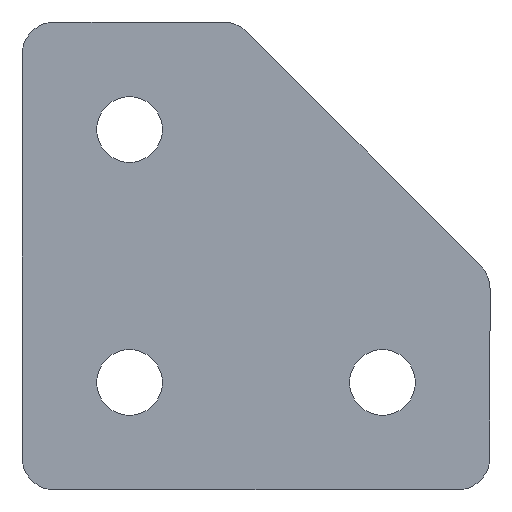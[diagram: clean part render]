
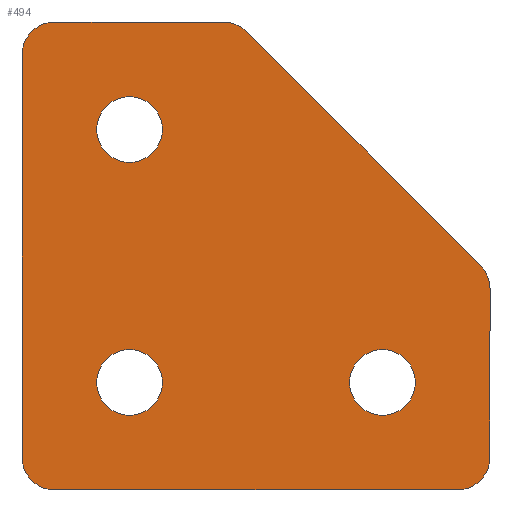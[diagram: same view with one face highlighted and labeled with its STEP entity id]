
A CAD part, front view. The second image highlights one B-rep face of the part: STEP entity #494.
In plain terms, the highlighted planar face has unit normal (0, -1, 0).
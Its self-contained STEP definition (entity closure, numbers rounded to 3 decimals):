
#1 = PLANE ( 'NONE',  #552 ) ;
#11 = VERTEX_POINT ( 'NONE', #652 ) ;
#14 = VERTEX_POINT ( 'NONE', #286 ) ;
#16 = CIRCLE ( 'NONE', #200, 2.6 ) ;
#23 = CARTESIAN_POINT ( 'NONE',  ( 4.961, 0., 14.663 ) ) ;
#25 = EDGE_CURVE ( 'NONE', #11, #14, #507, .T. ) ;
#26 = CARTESIAN_POINT ( 'NONE',  ( 10.861, 0., 6.163 ) ) ;
#29 = DIRECTION ( 'NONE',  ( 0., 1., 0. ) ) ;
#31 = DIRECTION ( 'NONE',  ( 0., 0., 1. ) ) ;
#34 = VERTEX_POINT ( 'NONE', #334 ) ;
#47 = CARTESIAN_POINT ( 'NONE',  ( 12.7, 0., 23.925 ) ) ;
#55 = ORIENTED_EDGE ( 'NONE', *, *, #306, .F. ) ;
#56 = ORIENTED_EDGE ( 'NONE', *, *, #94, .F. ) ;
#57 = DIRECTION ( 'NONE',  ( 0., 0., 1. ) ) ;
#61 = EDGE_CURVE ( 'NONE', #117, #530, #506, .T. ) ;
#65 = VERTEX_POINT ( 'NONE', #573 ) ;
#67 = AXIS2_PLACEMENT_3D ( 'NONE', #23, #381, #76 ) ;
#68 = VECTOR ( 'NONE', #31, 1000. ) ;
#71 = CARTESIAN_POINT ( 'NONE',  ( -15.039, 0., 34.663 ) ) ;
#73 = EDGE_CURVE ( 'NONE', #186, #65, #630, .T. ) ;
#76 = DIRECTION ( 'NONE',  ( 0., 0., 1. ) ) ;
#78 = DIRECTION ( 'NONE',  ( 0., 1., 0. ) ) ;
#80 = DIRECTION ( 'NONE',  ( 0., 1., 0. ) ) ;
#86 = AXIS2_PLACEMENT_3D ( 'NONE', #444, #136, #493 ) ;
#89 = VERTEX_POINT ( 'NONE', #626 ) ;
#94 = EDGE_CURVE ( 'NONE', #599, #186, #535, .T. ) ;
#97 = CARTESIAN_POINT ( 'NONE',  ( -7.616, 0., 43.163 ) ) ;
#98 = LINE ( 'NONE', #97, #629 ) ;
#103 = DIRECTION ( 'NONE',  ( 0., 1., 0. ) ) ;
#107 = ORIENTED_EDGE ( 'NONE', *, *, #25, .T. ) ;
#111 = VERTEX_POINT ( 'NONE', #309 ) ;
#112 = CIRCLE ( 'NONE', #411, 2.6 ) ;
#117 = VERTEX_POINT ( 'NONE', #256 ) ;
#118 = CARTESIAN_POINT ( 'NONE',  ( 4.961, 0., 14.663 ) ) ;
#121 = CARTESIAN_POINT ( 'NONE',  ( -7.616, 0., 40.563 ) ) ;
#132 = EDGE_CURVE ( 'NONE', #111, #140, #360, .T. ) ;
#136 = DIRECTION ( 'NONE',  ( 0., 1., 0. ) ) ;
#138 = CIRCLE ( 'NONE', #314, 2.6 ) ;
#140 = VERTEX_POINT ( 'NONE', #582 ) ;
#143 = EDGE_CURVE ( 'NONE', #14, #11, #612, .T. ) ;
#149 = AXIS2_PLACEMENT_3D ( 'NONE', #71, #425, #57 ) ;
#154 = DIRECTION ( 'NONE',  ( 0., -1., 0. ) ) ;
#160 = DIRECTION ( 'NONE',  ( 0., 0., 1. ) ) ;
#166 = ORIENTED_EDGE ( 'NONE', *, *, #366, .T. ) ;
#167 = FACE_OUTER_BOUND ( 'NONE', #554, .T. ) ;
#181 = ORIENTED_EDGE ( 'NONE', *, *, #623, .F. ) ;
#186 = VERTEX_POINT ( 'NONE', #540 ) ;
#188 = EDGE_CURVE ( 'NONE', #89, #606, #138, .T. ) ;
#200 = AXIS2_PLACEMENT_3D ( 'NONE', #328, #29, #389 ) ;
#202 = VERTEX_POINT ( 'NONE', #221 ) ;
#217 = FACE_BOUND ( 'NONE', #343, .T. ) ;
#221 = CARTESIAN_POINT ( 'NONE',  ( 4.961, 0., 12.063 ) ) ;
#225 = CIRCLE ( 'NONE', #529, 2.6 ) ;
#227 = ORIENTED_EDGE ( 'NONE', *, *, #324, .T. ) ;
#230 = CARTESIAN_POINT ( 'NONE',  ( -15.039, 0., 14.663 ) ) ;
#238 = EDGE_CURVE ( 'NONE', #606, #89, #294, .T. ) ;
#242 = LINE ( 'NONE', #587, #502 ) ;
#245 = CARTESIAN_POINT ( 'NONE',  ( 12.7, 0., 23.925 ) ) ;
#253 = CARTESIAN_POINT ( 'NONE',  ( -7.616, 0., 40.563 ) ) ;
#256 = CARTESIAN_POINT ( 'NONE',  ( -7.616, 0., 43.163 ) ) ;
#259 = DIRECTION ( 'NONE',  ( 0., 1., 0. ) ) ;
#260 = CARTESIAN_POINT ( 'NONE',  ( -23.539, 0., 40.563 ) ) ;
#262 = VECTOR ( 'NONE', #618, 1000. ) ;
#280 = DIRECTION ( 'NONE',  ( 0., 0., -1. ) ) ;
#281 = DIRECTION ( 'NONE',  ( 0., 0., 1. ) ) ;
#283 = CIRCLE ( 'NONE', #67, 2.6 ) ;
#286 = CARTESIAN_POINT ( 'NONE',  ( -15.039, 0., 32.063 ) ) ;
#293 = DIRECTION ( 'NONE',  ( 1., 0., 0. ) ) ;
#294 = CIRCLE ( 'NONE', #421, 2.6 ) ;
#306 = EDGE_CURVE ( 'NONE', #654, #111, #225, .T. ) ;
#309 = CARTESIAN_POINT ( 'NONE',  ( 13.461, 0., 22.086 ) ) ;
#314 = AXIS2_PLACEMENT_3D ( 'NONE', #386, #78, #435 ) ;
#323 = ORIENTED_EDGE ( 'NONE', *, *, #238, .T. ) ;
#324 = EDGE_CURVE ( 'NONE', #34, #202, #364, .T. ) ;
#328 = CARTESIAN_POINT ( 'NONE',  ( 10.861, 0., 8.763 ) ) ;
#329 = ORIENTED_EDGE ( 'NONE', *, *, #143, .T. ) ;
#334 = CARTESIAN_POINT ( 'NONE',  ( 4.961, 0., 17.263 ) ) ;
#338 = LINE ( 'NONE', #245, #637 ) ;
#340 = ORIENTED_EDGE ( 'NONE', *, *, #132, .F. ) ;
#343 = EDGE_LOOP ( 'NONE', ( #323, #538 ) ) ;
#349 = DIRECTION ( 'NONE',  ( 0., 0., -1. ) ) ;
#360 = LINE ( 'NONE', #570, #262 ) ;
#364 = CIRCLE ( 'NONE', #666, 2.6 ) ;
#366 = EDGE_CURVE ( 'NONE', #202, #34, #283, .T. ) ;
#381 = DIRECTION ( 'NONE',  ( 0., 1., 0. ) ) ;
#386 = CARTESIAN_POINT ( 'NONE',  ( -15.039, 0., 14.663 ) ) ;
#387 = CARTESIAN_POINT ( 'NONE',  ( -15.039, 0., 34.663 ) ) ;
#389 = DIRECTION ( 'NONE',  ( 0., 0., -1. ) ) ;
#394 = ORIENTED_EDGE ( 'NONE', *, *, #61, .F. ) ;
#396 = VERTEX_POINT ( 'NONE', #26 ) ;
#398 = ORIENTED_EDGE ( 'NONE', *, *, #473, .F. ) ;
#406 = CARTESIAN_POINT ( 'NONE',  ( -20.939, 0., 8.763 ) ) ;
#411 = AXIS2_PLACEMENT_3D ( 'NONE', #406, #103, #462 ) ;
#421 = AXIS2_PLACEMENT_3D ( 'NONE', #230, #595, #281 ) ;
#423 = EDGE_CURVE ( 'NONE', #140, #396, #16, .T. ) ;
#425 = DIRECTION ( 'NONE',  ( 0., 1., 0. ) ) ;
#432 = EDGE_LOOP ( 'NONE', ( #329, #107 ) ) ;
#433 = DIRECTION ( 'NONE',  ( -1., 0., 0. ) ) ;
#435 = DIRECTION ( 'NONE',  ( 0., 0., 1. ) ) ;
#437 = DIRECTION ( 'NONE',  ( 0., 0., 1. ) ) ;
#444 = CARTESIAN_POINT ( 'NONE',  ( -20.939, 0., 40.563 ) ) ;
#449 = VERTEX_POINT ( 'NONE', #609 ) ;
#453 = CARTESIAN_POINT ( 'NONE',  ( -15.039, 0., 12.063 ) ) ;
#462 = DIRECTION ( 'NONE',  ( 0., 0., -1. ) ) ;
#470 = DIRECTION ( 'NONE',  ( 0., 1., 0. ) ) ;
#473 = EDGE_CURVE ( 'NONE', #449, #599, #112, .T. ) ;
#479 = FACE_BOUND ( 'NONE', #624, .T. ) ;
#481 = EDGE_CURVE ( 'NONE', #530, #654, #338, .T. ) ;
#493 = DIRECTION ( 'NONE',  ( 0., 0., 1. ) ) ;
#494 = ADVANCED_FACE ( 'NONE', ( #501, #167, #217, #479 ), #1, .T. ) ;
#500 = ORIENTED_EDGE ( 'NONE', *, *, #578, .F. ) ;
#501 = FACE_BOUND ( 'NONE', #432, .T. ) ;
#502 = VECTOR ( 'NONE', #433, 1000. ) ;
#506 = CIRCLE ( 'NONE', #649, 2.6 ) ;
#507 = CIRCLE ( 'NONE', #608, 2.6 ) ;
#529 = AXIS2_PLACEMENT_3D ( 'NONE', #574, #259, #622 ) ;
#530 = VERTEX_POINT ( 'NONE', #635 ) ;
#535 = LINE ( 'NONE', #260, #68 ) ;
#538 = ORIENTED_EDGE ( 'NONE', *, *, #188, .T. ) ;
#540 = CARTESIAN_POINT ( 'NONE',  ( -23.539, 0., 40.563 ) ) ;
#542 = CARTESIAN_POINT ( 'NONE',  ( -23.539, 0., 8.763 ) ) ;
#552 = AXIS2_PLACEMENT_3D ( 'NONE', #253, #154, #349 ) ;
#554 = EDGE_LOOP ( 'NONE', ( #394, #181, #585, #56, #398, #500, #583, #340, #55, #561 ) ) ;
#561 = ORIENTED_EDGE ( 'NONE', *, *, #481, .F. ) ;
#570 = CARTESIAN_POINT ( 'NONE',  ( 13.461, 0., 8.763 ) ) ;
#573 = CARTESIAN_POINT ( 'NONE',  ( -20.939, 0., 43.163 ) ) ;
#574 = CARTESIAN_POINT ( 'NONE',  ( 10.861, 0., 22.086 ) ) ;
#578 = EDGE_CURVE ( 'NONE', #396, #449, #242, .T. ) ;
#582 = CARTESIAN_POINT ( 'NONE',  ( 13.461, 0., 8.763 ) ) ;
#583 = ORIENTED_EDGE ( 'NONE', *, *, #423, .F. ) ;
#585 = ORIENTED_EDGE ( 'NONE', *, *, #73, .F. ) ;
#587 = CARTESIAN_POINT ( 'NONE',  ( 10.861, 0., 6.163 ) ) ;
#592 = DIRECTION ( 'NONE',  ( 0., 1., 0. ) ) ;
#595 = DIRECTION ( 'NONE',  ( 0., 1., 0. ) ) ;
#599 = VERTEX_POINT ( 'NONE', #542 ) ;
#606 = VERTEX_POINT ( 'NONE', #453 ) ;
#608 = AXIS2_PLACEMENT_3D ( 'NONE', #387, #80, #437 ) ;
#609 = CARTESIAN_POINT ( 'NONE',  ( -20.939, 0., 6.163 ) ) ;
#612 = CIRCLE ( 'NONE', #149, 2.6 ) ;
#618 = DIRECTION ( 'NONE',  ( 0., 0., -1. ) ) ;
#622 = DIRECTION ( 'NONE',  ( 0., 0., 1. ) ) ;
#623 = EDGE_CURVE ( 'NONE', #65, #117, #98, .T. ) ;
#624 = EDGE_LOOP ( 'NONE', ( #166, #227 ) ) ;
#626 = CARTESIAN_POINT ( 'NONE',  ( -15.039, 0., 17.263 ) ) ;
#629 = VECTOR ( 'NONE', #293, 1000. ) ;
#630 = CIRCLE ( 'NONE', #86, 2.6 ) ;
#635 = CARTESIAN_POINT ( 'NONE',  ( -5.777, 0., 42.402 ) ) ;
#637 = VECTOR ( 'NONE', #662, 1000. ) ;
#649 = AXIS2_PLACEMENT_3D ( 'NONE', #121, #592, #280 ) ;
#652 = CARTESIAN_POINT ( 'NONE',  ( -15.039, 0., 37.263 ) ) ;
#654 = VERTEX_POINT ( 'NONE', #47 ) ;
#662 = DIRECTION ( 'NONE',  ( 0.707, 0., -0.707 ) ) ;
#666 = AXIS2_PLACEMENT_3D ( 'NONE', #118, #470, #160 ) ;
